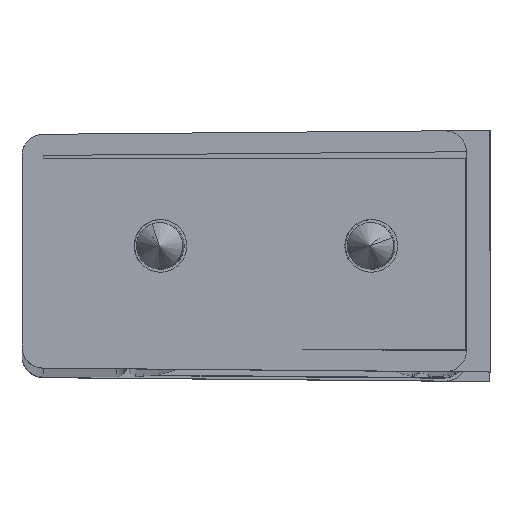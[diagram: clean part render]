
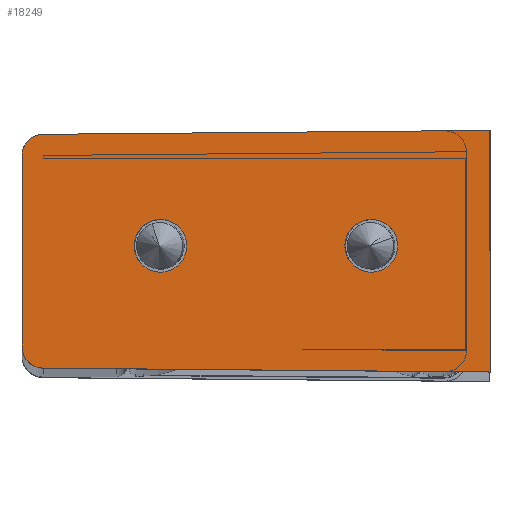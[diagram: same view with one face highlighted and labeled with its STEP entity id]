
A CAD part, top view. The second image highlights one B-rep face of the part: STEP entity #18249.
In plain terms, the highlighted planar face has unit normal (-0.009, 0, 1) as drawn and (0.009, 0, -1) by its records, which use the part's own axes.
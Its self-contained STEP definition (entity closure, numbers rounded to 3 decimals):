
#493 = VERTEX_POINT ( 'NONE', #11376 ) ;
#670 = CARTESIAN_POINT ( 'NONE',  ( 12.783, 4.1, -3.054 ) ) ;
#1081 = VECTOR ( 'NONE', #32711, 1000. ) ;
#1238 = CARTESIAN_POINT ( 'NONE',  ( 4.033, 4.1, -3.131 ) ) ;
#2043 = EDGE_CURVE ( 'NONE', #38700, #493, #10454, .T. ) ;
#2295 = ORIENTED_EDGE ( 'NONE', *, *, #17766, .T. ) ;
#2506 = ORIENTED_EDGE ( 'NONE', *, *, #3650, .T. ) ;
#3421 = VERTEX_POINT ( 'NONE', #36656 ) ;
#3650 = EDGE_CURVE ( 'NONE', #3421, #38700, #11148, .T. ) ;
#3899 = CIRCLE ( 'NONE', #26806, 1.25 ) ;
#3953 = DIRECTION ( 'NONE',  ( -0.009, 0., 1. ) ) ;
#6694 = VERTEX_POINT ( 'NONE', #22089 ) ;
#7181 = EDGE_LOOP ( 'NONE', ( #13856, #21944 ) ) ;
#7497 = AXIS2_PLACEMENT_3D ( 'NONE', #9923, #3953, #22346 ) ;
#7594 = VECTOR ( 'NONE', #20371, 1000. ) ;
#8483 = FACE_BOUND ( 'NONE', #38567, .T. ) ;
#8828 = ORIENTED_EDGE ( 'NONE', *, *, #23259, .T. ) ;
#9923 = CARTESIAN_POINT ( 'NONE',  ( 14.033, 4.1, -3.043 ) ) ;
#10454 = LINE ( 'NONE', #38860, #1081 ) ;
#10935 = CIRCLE ( 'NONE', #16331, 1.25 ) ;
#11148 = LINE ( 'NONE', #17470, #29094 ) ;
#11271 = CIRCLE ( 'NONE', #34772, 1.25 ) ;
#11376 = CARTESIAN_POINT ( 'NONE',  ( -1.6, 9.58, -3.18 ) ) ;
#11878 = DIRECTION ( 'NONE',  ( -1., 0., -0.009 ) ) ;
#11980 = CARTESIAN_POINT ( 'NONE',  ( 20.19, -1.69, -2.99 ) ) ;
#12208 = VERTEX_POINT ( 'NONE', #14113 ) ;
#12697 = CARTESIAN_POINT ( 'NONE',  ( 5.283, 4.1, -3.12 ) ) ;
#13319 = CARTESIAN_POINT ( 'NONE',  ( 20.6, -0.695, -2.986 ) ) ;
#13346 = CARTESIAN_POINT ( 'NONE',  ( 19.126, 9.399, -2.999 ) ) ;
#13771 = LINE ( 'NONE', #13346, #17891 ) ;
#13856 = ORIENTED_EDGE ( 'NONE', *, *, #28219, .T. ) ;
#14113 = CARTESIAN_POINT ( 'NONE',  ( 20.6, 8.395, -2.986 ) ) ;
#14153 = DIRECTION ( 'NONE',  ( 1., 0., 0.009 ) ) ;
#14269 = EDGE_LOOP ( 'NONE', ( #2295, #17473, #2506, #35802, #32156, #8828 ) ) ;
#15038 = CARTESIAN_POINT ( 'NONE',  ( 19., 0., -3. ) ) ;
#16331 = AXIS2_PLACEMENT_3D ( 'NONE', #22615, #28086, #38620 ) ;
#17470 = CARTESIAN_POINT ( 'NONE',  ( 19.126, -1.699, -2.999 ) ) ;
#17473 = ORIENTED_EDGE ( 'NONE', *, *, #37799, .T. ) ;
#17716 = ORIENTED_EDGE ( 'NONE', *, *, #24304, .T. ) ;
#17766 = EDGE_CURVE ( 'NONE', #12208, #28221, #19549, .T. ) ;
#17891 = VECTOR ( 'NONE', #26165, 1000. ) ;
#18249 = ADVANCED_FACE ( 'NONE', ( #8483, #21361, #34166 ), #30982, .T. ) ;
#18387 = VERTEX_POINT ( 'NONE', #12697 ) ;
#18989 = CARTESIAN_POINT ( 'NONE',  ( 20.6, 8.976, -2.986 ) ) ;
#19549 = LINE ( 'NONE', #35715, #7594 ) ;
#20371 = DIRECTION ( 'NONE',  ( 0., -1., 0. ) ) ;
#21361 = FACE_BOUND ( 'NONE', #7181, .T. ) ;
#21944 = ORIENTED_EDGE ( 'NONE', *, *, #25649, .T. ) ;
#21967 = CARTESIAN_POINT ( 'NONE',  ( 19.609, 9.395, -2.995 ) ) ;
#22089 = CARTESIAN_POINT ( 'NONE',  ( 2.783, 4.1, -3.142 ) ) ;
#22346 = DIRECTION ( 'NONE',  ( 1., 0., 0.009 ) ) ;
#22615 = CARTESIAN_POINT ( 'NONE',  ( 4.033, 4.1, -3.131 ) ) ;
#22943 = CARTESIAN_POINT ( 'NONE',  ( 19.609, 9.395, -2.995 ) ) ;
#23259 = EDGE_CURVE ( 'NONE', #27165, #12208, #31113, .T. ) ;
#23540 = ORIENTED_EDGE ( 'NONE', *, *, #37017, .T. ) ;
#24304 = EDGE_CURVE ( 'NONE', #29312, #33310, #40460, .T. ) ;
#24813 = CARTESIAN_POINT ( 'NONE',  ( 20.6, -1.276, -2.986 ) ) ;
#25649 = EDGE_CURVE ( 'NONE', #6694, #18387, #10935, .T. ) ;
#25895 = CARTESIAN_POINT ( 'NONE',  ( 20.6, 8.395, -2.986 ) ) ;
#26165 = DIRECTION ( 'NONE',  ( 1., -0.009, 0.009 ) ) ;
#26806 = AXIS2_PLACEMENT_3D ( 'NONE', #1238, #32426, #14153 ) ;
#27165 = VERTEX_POINT ( 'NONE', #21967 ) ;
#27234 = CARTESIAN_POINT ( 'NONE',  ( -1.6, -1.88, -3.18 ) ) ;
#27532 = CARTESIAN_POINT ( 'NONE',  ( 20.6, -0.695, -2.986 ) ) ;
#27688 =( BOUNDED_CURVE ( )  B_SPLINE_CURVE ( 3, ( #27532, #24813, #11980, #37446 ),
 .UNSPECIFIED., .F., .T. ) 
 B_SPLINE_CURVE_WITH_KNOTS ( ( 4, 4 ),
 ( 3.142, 4.704 ),
 .UNSPECIFIED. ) 
 CURVE ( )  GEOMETRIC_REPRESENTATION_ITEM ( )  RATIONAL_B_SPLINE_CURVE ( ( 1., 0.807, 0.807, 1. ) ) 
 REPRESENTATION_ITEM ( '' )  );
#27852 = DIRECTION ( 'NONE',  ( 0.009, 0., -1. ) ) ;
#28086 = DIRECTION ( 'NONE',  ( -0.009, 0., 1. ) ) ;
#28219 = EDGE_CURVE ( 'NONE', #18387, #6694, #3899, .T. ) ;
#28221 = VERTEX_POINT ( 'NONE', #13319 ) ;
#29094 = VECTOR ( 'NONE', #39558, 1000. ) ;
#29312 = VERTEX_POINT ( 'NONE', #33644 ) ;
#30831 = CARTESIAN_POINT ( 'NONE',  ( 14.033, 4.1, -3.043 ) ) ;
#30982 = PLANE ( 'NONE',  #37895 ) ;
#31113 =( BOUNDED_CURVE ( )  B_SPLINE_CURVE ( 3, ( #22943, #32601, #18989, #25895 ),
 .UNSPECIFIED., .F., .T. ) 
 B_SPLINE_CURVE_WITH_KNOTS ( ( 4, 4 ),
 ( 1.58, 3.142 ),
 .UNSPECIFIED. ) 
 CURVE ( )  GEOMETRIC_REPRESENTATION_ITEM ( )  RATIONAL_B_SPLINE_CURVE ( ( 1., 0.807, 0.807, 1. ) ) 
 REPRESENTATION_ITEM ( '' )  );
#31909 = EDGE_CURVE ( 'NONE', #493, #27165, #13771, .T. ) ;
#32156 = ORIENTED_EDGE ( 'NONE', *, *, #31909, .T. ) ;
#32426 = DIRECTION ( 'NONE',  ( -0.009, 0., 1. ) ) ;
#32601 = CARTESIAN_POINT ( 'NONE',  ( 20.19, 9.39, -2.99 ) ) ;
#32711 = DIRECTION ( 'NONE',  ( 0., 1., 0. ) ) ;
#33310 = VERTEX_POINT ( 'NONE', #670 ) ;
#33644 = CARTESIAN_POINT ( 'NONE',  ( 15.283, 4.1, -3.032 ) ) ;
#33791 = DIRECTION ( 'NONE',  ( -0.009, 0., 1. ) ) ;
#34166 = FACE_OUTER_BOUND ( 'NONE', #14269, .T. ) ;
#34772 = AXIS2_PLACEMENT_3D ( 'NONE', #30831, #33791, #37182 ) ;
#35715 = CARTESIAN_POINT ( 'NONE',  ( 20.6, 9.4, -2.986 ) ) ;
#35802 = ORIENTED_EDGE ( 'NONE', *, *, #2043, .T. ) ;
#36656 = CARTESIAN_POINT ( 'NONE',  ( 19.609, -1.695, -2.995 ) ) ;
#37017 = EDGE_CURVE ( 'NONE', #33310, #29312, #11271, .T. ) ;
#37182 = DIRECTION ( 'NONE',  ( 1., 0., 0.009 ) ) ;
#37446 = CARTESIAN_POINT ( 'NONE',  ( 19.609, -1.695, -2.995 ) ) ;
#37799 = EDGE_CURVE ( 'NONE', #28221, #3421, #27688, .T. ) ;
#37895 = AXIS2_PLACEMENT_3D ( 'NONE', #15038, #27852, #11878 ) ;
#38567 = EDGE_LOOP ( 'NONE', ( #17716, #23540 ) ) ;
#38620 = DIRECTION ( 'NONE',  ( 1., 0., 0.009 ) ) ;
#38700 = VERTEX_POINT ( 'NONE', #27234 ) ;
#38860 = CARTESIAN_POINT ( 'NONE',  ( -1.6, -1.7, -3.18 ) ) ;
#39558 = DIRECTION ( 'NONE',  ( -1., -0.009, -0.009 ) ) ;
#40460 = CIRCLE ( 'NONE', #7497, 1.25 ) ;
